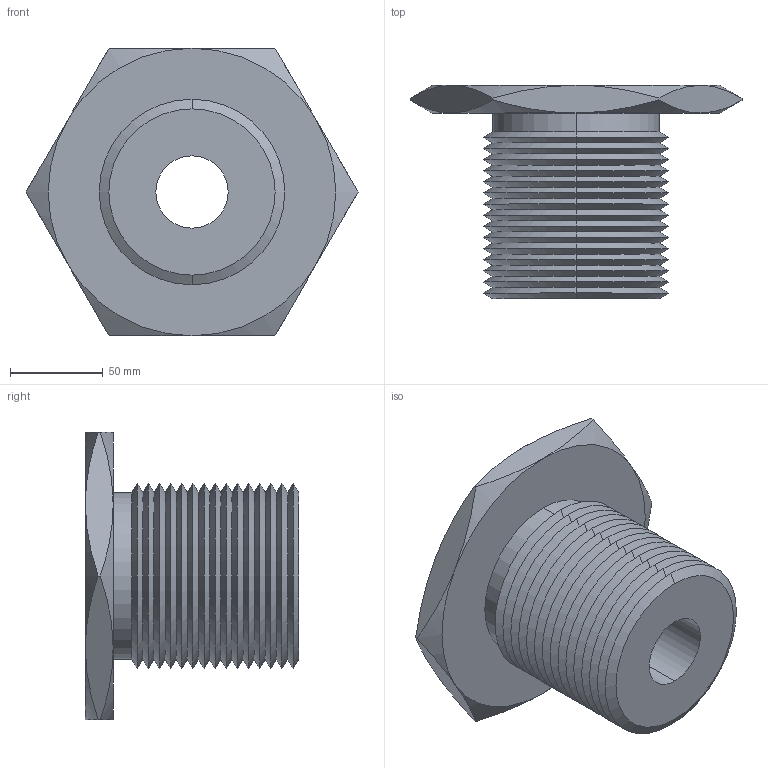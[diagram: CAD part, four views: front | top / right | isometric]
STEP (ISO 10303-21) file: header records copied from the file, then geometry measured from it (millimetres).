
FILE_DESCRIPTION (( 'STEP AP203' ), '1' );
FILE_NAME ('63302.W0100_M39x4.step', '2013-12-08T11:29:42', ( 'User' ), ( '' ), 'SwSTEP 2.0', 'SolidWorks 2009', '' );
FILE_SCHEMA (( 'CONFIG_CONTROL_DESIGN' ));
Length unit declared in the file: millimetre
Products named in the file (1): 63302.W0100_M39x4
Bounding box: 178.98 x 115 x 155 mm (x, y, z)
Volume: 864593.1 mm3; surface area: 115576.2 mm2
Topology: 1 solids, 1 shells, 87 faces, 178 edges, 94 vertices
Faces by surface type: cone 74, plane 9, cylinder 4
Entity records: 2479 total; most frequent: CARTESIAN_POINT 584, DIRECTION 412, ORIENTED_EDGE 356, EDGE_CURVE 178, AXIS2_PLACEMENT_3D 170, VERTEX_POINT 94, EDGE_LOOP 90, ADVANCED_FACE 87
